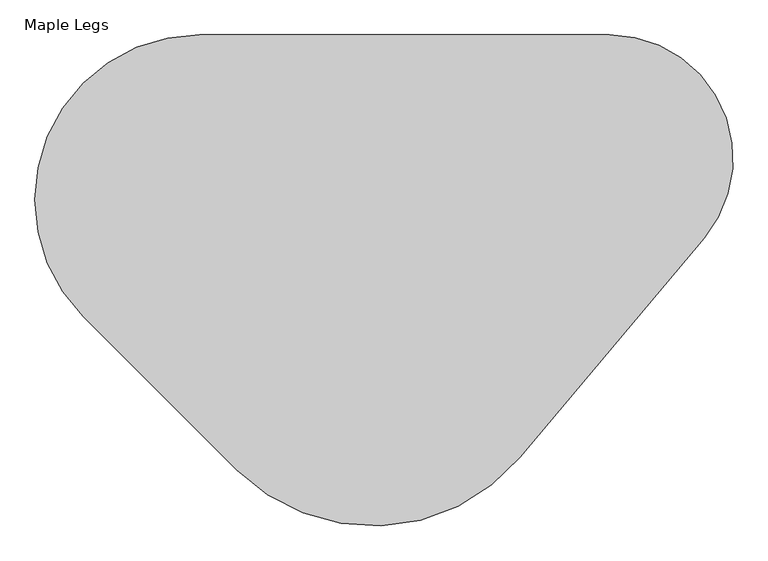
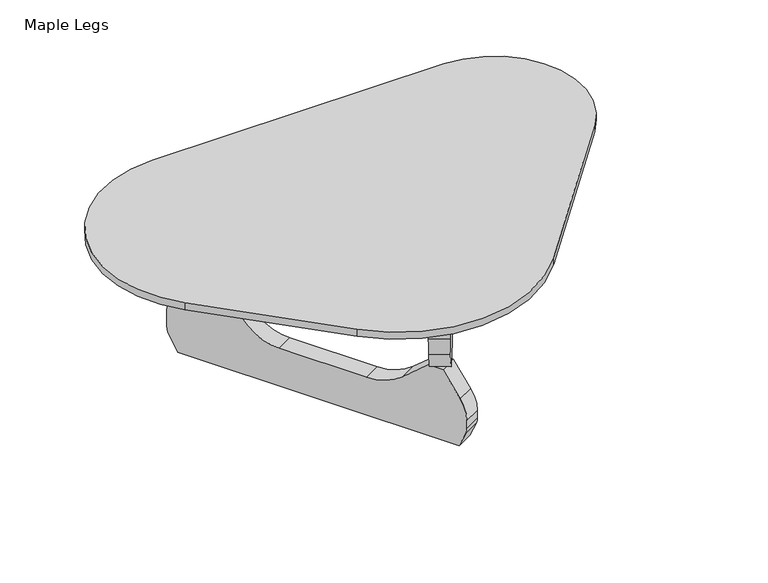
"""IFC4 building model written with IfcOpenShell, lengths in millimetres: furniture geometry, Noguchi Table : Maple Legs."""

from ifc_helpers import new_model, si_unit, point, frame, frame_2d, origin, place, context, project, spatial, polyline, circle_curve, trimmed, segment, composite_curve, outline, extrude, source, transform, mapped, element, save


def maple_legs_6788962f(model_context):
    return source(origin(), model_context, "Body", "SweptSolid", [
        extrude(outline(composite_curve([segment(trimmed(circle_curve(frame_2d((-400.6721124, 49.2852677)), 304.8), [point((-616.1982593, -166.2408792))], [point((-400.6721124, 354.0852677))], False, "CARTESIAN"), True, "CONTINUOUS"), segment(polyline([(-400.6721124, 354.0852677), (355.721756, 354.0852677)]), True, "CONTINUOUS"), segment(trimmed(circle_curve(frame_2d((355.721756, 125.4852677)), 228.6), [point((355.721756, 354.0852677))], [point((530.8395157, -21.4559798))], False, "CARTESIAN"), True, "CONTINUOUS"), segment(polyline([(530.8395157, -21.4559798), (190.8842378, -426.5989036)]), True, "CONTINUOUS"), segment(trimmed(circle_curve(frame_2d((-81.5211661, -198.0236296)), 355.6), [point((190.8842378, -426.5989036))], [point((-332.9683375, -449.470801))], False, "CARTESIAN"), True, "CONTINUOUS"), segment(polyline([(-332.9683375, -449.470801), (-616.1982593, -166.2408792)]), True, "CONTINUOUS")], self_intersect=False)), frame((0.0, 0.0, 387.35), z_axis=(0.0, 0.0, 1.0), x_axis=(1.0, 0.0, 0.0)), (0.0, 0.0, 1.0), 19.05),
        extrude(outline(composite_curve([segment(trimmed(circle_curve(frame_2d((0.0, 292.1)), 292.1), [point((85.401775, 12.7633808))], [point((0.0, 0.0))], False, "CARTESIAN"), True, "CONTINUOUS"), segment(polyline([(0.0, 0.0), (-38.515049, 0.0)]), True, "CONTINUOUS"), segment(trimmed(circle_curve(frame_2d((-38.515049, 44.45)), 44.45), [point((-38.515049, 0.0))], [point((-60.740049, 5.9551708))], False, "CARTESIAN"), True, "CONTINUOUS"), segment(polyline([(-60.740049, 5.9551708), (-99.9621328, 28.6000515), (-99.9621328, 759.2112914), (-61.6824096, 776.3453752)]), True, "CONTINUOUS"), segment(trimmed(circle_curve(frame_2d((-46.368836, 742.1329033)), 37.4833132), [point((-61.6824096, 776.3453752))], [point((-46.368836, 779.6162165))], False, "CARTESIAN"), True, "CONTINUOUS"), segment(polyline([(-46.368836, 779.6162165), (-25.3127237, 779.6162165)]), True, "CONTINUOUS"), segment(trimmed(circle_curve(frame_2d((-25.3127237, 684.3662165)), 95.25), [point((-25.3127237, 779.6162165))], [point((29.3204318, 762.3904487))], False, "CARTESIAN"), True, "CONTINUOUS"), segment(polyline([(29.3204318, 762.3904487), (93.5973313, 717.3832791), (93.5973313, 679.2832792), (37.9691113, 612.9881481)]), True, "CONTINUOUS"), segment(trimmed(circle_curve(frame_2d((149.8499022, 519.1090177)), 146.05), [point((37.9691113, 612.9881481))], [point((3.7999022, 519.1090177))], True, "CARTESIAN"), True, "CONTINUOUS"), segment(polyline([(3.7999022, 519.1090177), (3.7999022, 289.2152928)]), True, "CONTINUOUS"), segment(trimmed(circle_curve(frame_2d((124.4499022, 289.2152928)), 120.65), [point((3.7999022, 289.2152928))], [point((93.2233844, 172.6763419))], True, "CARTESIAN"), True, "CONTINUOUS"), segment(polyline([(93.2233844, 172.6763419), (287.3878672, 120.6501255), (287.3878672, 74.5167264), (85.401775, 12.7633808)]), True, "CONTINUOUS")], self_intersect=False)), frame((308.4447284, 188.6215706, 287.3878672), z_axis=(-0.8480480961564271, 0.5299192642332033, 0.0), x_axis=(0.0, 0.0, -1.0)), (0.0, 0.0, 1.0), 48.5804754),
        extrude(outline(composite_curve([segment(trimmed(circle_curve(frame_2d((0.0, 292.1)), 292.1), [point((-85.401775, 571.4366192))], [point((0.0, 584.2))], False, "CARTESIAN"), True, "CONTINUOUS"), segment(polyline([(0.0, 584.2), (38.515049, 584.2)]), True, "CONTINUOUS"), segment(trimmed(circle_curve(frame_2d((38.515049, 539.75)), 44.45), [point((38.515049, 584.2))], [point((60.740049, 578.2448292))], False, "CARTESIAN"), True, "CONTINUOUS"), segment(polyline([(60.740049, 578.2448292), (99.9621328, 555.5999486), (99.9621328, -175.0112915), (61.6824096, -192.1453752)]), True, "CONTINUOUS"), segment(trimmed(circle_curve(frame_2d((46.368836, -157.9329034)), 37.4833132), [point((61.6824096, -192.1453752))], [point((46.368836, -195.4162165))], False, "CARTESIAN"), True, "CONTINUOUS"), segment(polyline([(46.368836, -195.4162165), (25.3127237, -195.4162165)]), True, "CONTINUOUS"), segment(trimmed(circle_curve(frame_2d((25.3127237, -100.1662165)), 95.25), [point((25.3127237, -195.4162165))], [point((-29.3204318, -178.1904487))], False, "CARTESIAN"), True, "CONTINUOUS"), segment(polyline([(-29.3204318, -178.1904487), (-93.5973313, -133.1832792), (-93.5973313, -95.0832792), (-37.9691113, -28.7881482)]), True, "CONTINUOUS"), segment(trimmed(circle_curve(frame_2d((-149.8499022, 65.0909822)), 146.05), [point((-37.9691113, -28.7881482))], [point((-3.7999022, 65.0909822))], True, "CARTESIAN"), True, "CONTINUOUS"), segment(polyline([(-3.7999022, 65.0909822), (-3.7999022, 291.9391371)]), True, "CONTINUOUS"), segment(trimmed(circle_curve(frame_2d((-124.4499022, 291.9391371)), 120.65), [point((-3.7999022, 291.9391371))], [point((-93.2233844, 408.478088))], True, "CARTESIAN"), True, "CONTINUOUS"), segment(polyline([(-93.2233844, 408.478088), (-287.3878672, 460.5043043), (-287.3878672, 509.6832736), (-85.401775, 571.4366192)]), True, "CONTINUOUS")], self_intersect=False)), frame((-159.2816332, -304.7559779, 99.9621328), z_axis=(0.8660254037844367, 0.5000000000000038, 0.0), x_axis=(0.0, 0.0, -1.0)), (0.0, 0.0, 1.0), 46.6647559),
    ])


if __name__ == "__main__":
    model = new_model("IFC4")
    model_context = context("Model", 3, world=origin())
    ifc_project = project(units=[si_unit("LENGTHUNIT", "METRE", prefix="MILLI")], contexts=[model_context])
    site = spatial("IfcSite", under=ifc_project)
    building = spatial("IfcBuilding", under=site)
    placement = place(None, origin())
    maple_legs_shape = maple_legs_6788962f(model_context)
    element("IfcFurniture", 1, ObjectType="Noguchi Table : Maple Legs", at=placement, inside=building, context=model_context, shape_type="MappedRepresentation", body=[
        mapped(maple_legs_shape, transform((0.0, 0.0, 0.0), x_axis=(1.0, 0.0, 0.0), y_axis=(0.0, 1.0, 0.0), z_axis=(0.0, 0.0, 1.0))),
    ])
    save(model, "model.ifc")
